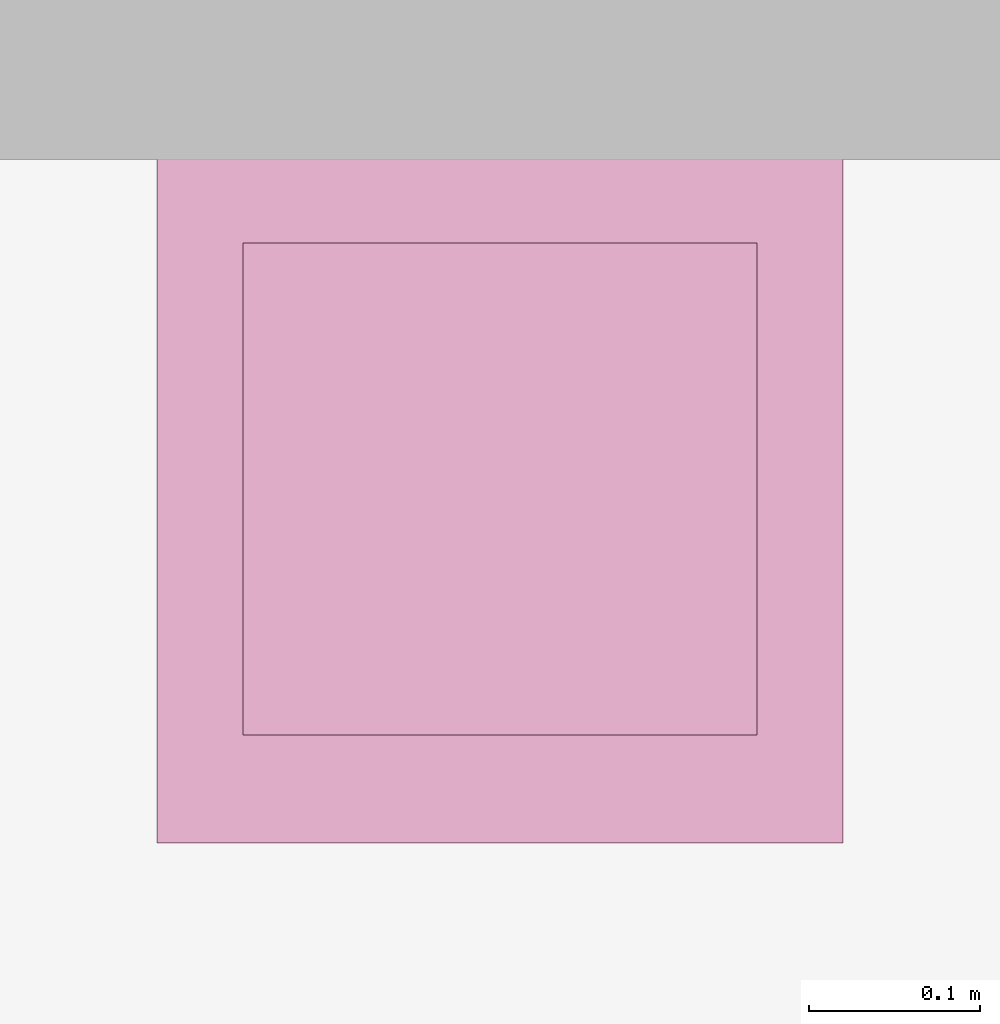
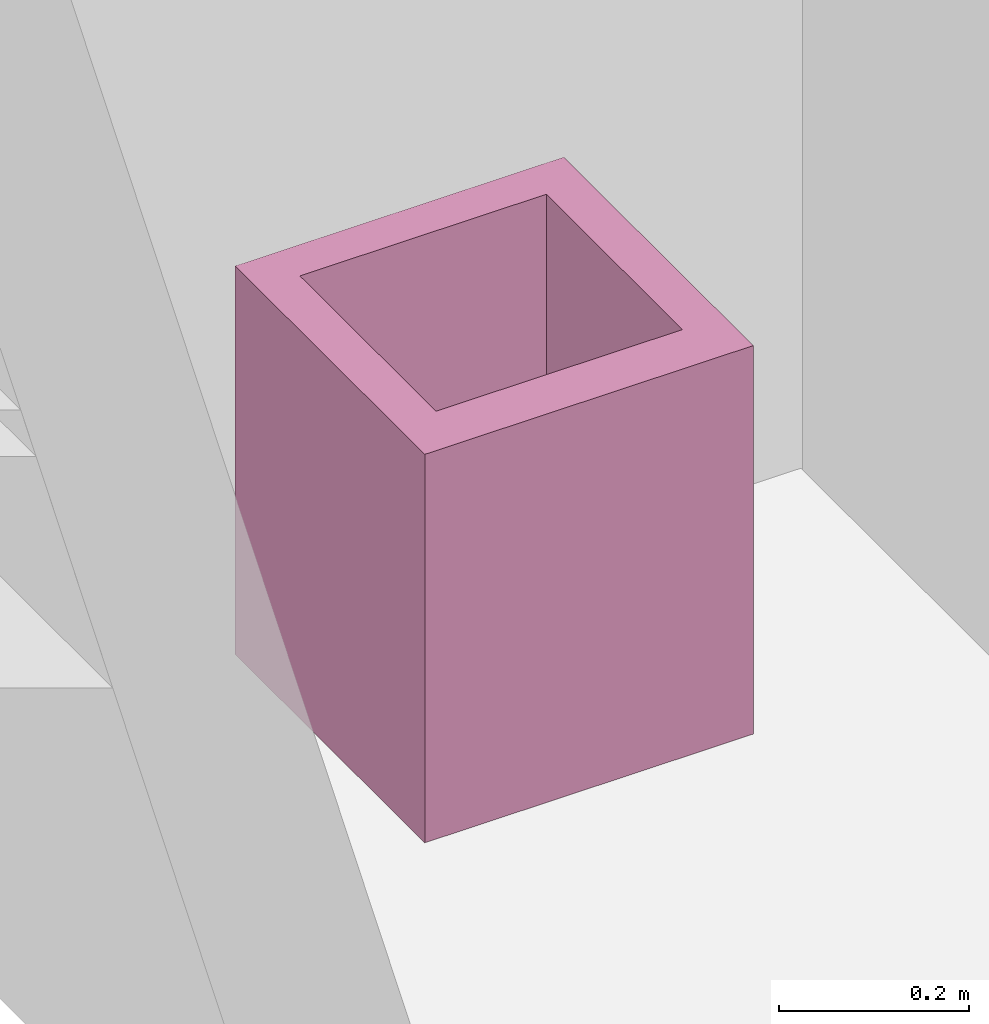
"""IFC4 building model written with IfcOpenShell, lengths in metres."""

from ifc_helpers import new_model, entity, si_unit, converted_unit, derived_unit, frame, origin, place, context, subcontext, project, spatial, faceted_brep, element, save


model = new_model("IFC4")

# Units and contexts
model_context = context("Model", 3, precision=1e-05, world=origin())
body_context = subcontext(model_context, "Body", "Model", "MODEL_VIEW")
ifc_project = project(units=[si_unit("LENGTHUNIT", "METRE"), si_unit("AREAUNIT", "SQUARE_METRE"), si_unit("VOLUMEUNIT", "CUBIC_METRE"), si_unit("MASSUNIT", "GRAM", prefix="KILO"), converted_unit("PLANEANGLEUNIT", "DEGREE", entity("IfcPlaneAngleMeasure", 0.0174532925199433), si_unit("PLANEANGLEUNIT", "RADIAN"), dimensions=[0, 0, 0, 0, 0, 0, 0]), derived_unit("THERMALTRANSMITTANCEUNIT", [(si_unit("POWERUNIT", "WATT"), 1), (si_unit("THERMODYNAMICTEMPERATUREUNIT", "KELVIN"), -1), (si_unit("LENGTHUNIT", "METRE"), -2)]), derived_unit("VOLUMETRICFLOWRATEUNIT", [(si_unit("LENGTHUNIT", "METRE"), 3), (converted_unit("TIMEUNIT", "hour", entity("IfcTimeMeasure", 3600.0), si_unit("TIMEUNIT", "SECOND"), dimensions=[0, 0, 1, 0, 0, 0, 0]), -1), (si_unit("LENGTHUNIT", "METRE"), -1)])], contexts=[model_context])

# Building, storeys
building_placement = place(None, origin())
building = spatial("IfcBuilding", under=ifc_project, at=building_placement, Name="HABITATGE PLURIFAMILIAR", CompositionType="ELEMENT")
storey_1_placement = place(building_placement, frame((0.0, 0.0, 18.29)))
storey_1 = spatial("IfcBuildingStorey", under=building, at=storey_1_placement, Name="PLANTA CINQUENA", CompositionType="ELEMENT", Elevation=18.29)
storey_2_placement = place(storey_1_placement, frame((0.0, 0.0, 15.28)))
storey_2 = spatial("IfcBuildingStorey", under=storey_1, at=storey_2_placement, Name="NOU", CompositionType="PARTIAL")

# Furniture
furniture_placement = place(storey_2_placement, frame((416.236937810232, 27.300783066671, -15.28)))
element("IfcFurniture", 1, at=furniture_placement, inside=storey_2, Name="Abocador P5", context=body_context, shape_type="Brep", body=[
    faceted_brep([(0.05, 0.0628648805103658, 0.5), (0.05, 0.35, 0.5), (0.05, 0.35, 0.2), (0.05, 0.0628648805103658, 0.2), (0.35, 0.0628648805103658, 0.5), (0.35, 0.0628648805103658, 0.2), (0.35, 0.35, 0.5), (0.35, 0.35, 0.2), (0.4, 0.4, 0.0), (0.0, 0.4, 0.0), (0.0, 0.0, 0.0), (0.4, 0.0, 0.0), (0.4, 0.4, 0.5), (0.0, 0.4, 0.5), (0.4, 0.0, 0.5), (0.0, 0.0, 0.5)], [[[0, 1, 2, 3]], [[4, 0, 3, 5]], [[1, 6, 7, 2]], [[7, 5, 3, 2]], [[6, 4, 5, 7]], [[8, 9, 10, 11]], [[9, 8, 12, 13]], [[8, 11, 14, 12]], [[11, 10, 15, 14]], [[10, 9, 13, 15]], [[13, 12, 14, 15], [1, 0, 4, 6]]], orient=[[False], [False], [False], [False], [False], [False], [False], [False], [False], [False], [False, False]]),
])

save(model, "model.ifc")
